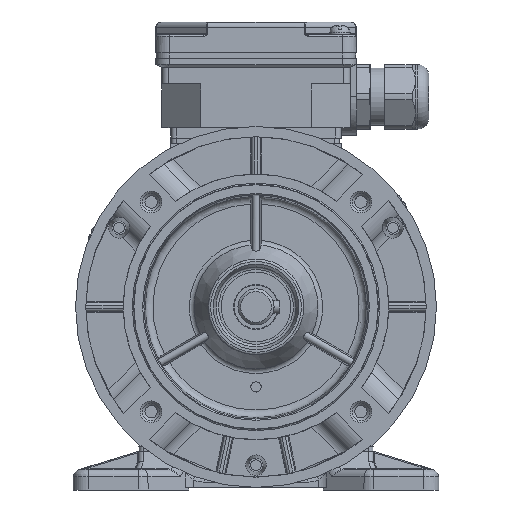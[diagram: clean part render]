
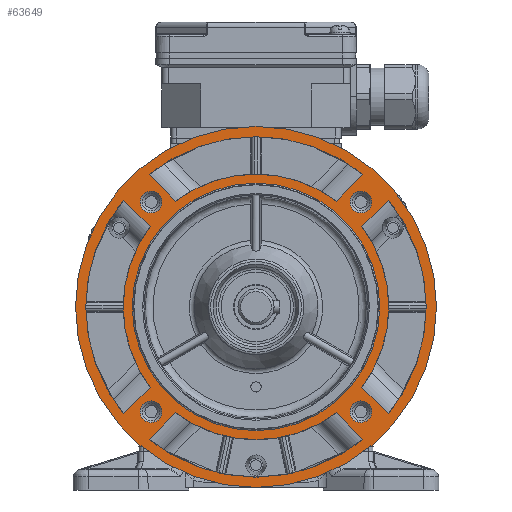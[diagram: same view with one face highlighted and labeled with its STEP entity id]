
A CAD part, front view. The second image highlights one B-rep face of the part: STEP entity #63649.
In plain terms, the highlighted planar face has unit normal (0, -1, 0).
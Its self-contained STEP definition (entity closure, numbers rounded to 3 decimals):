
#4535=CIRCLE('',#67129,48.);
#4536=CIRCLE('',#67131,51.5);
#4537=CIRCLE('',#67134,66.);
#4538=CIRCLE('',#67137,51.5);
#4539=CIRCLE('',#67140,66.);
#4540=CIRCLE('',#67143,51.5);
#4541=CIRCLE('',#67146,66.);
#4542=CIRCLE('',#67150,51.5);
#4543=CIRCLE('',#67153,66.);
#4544=CIRCLE('',#67155,4.2);
#4545=CIRCLE('',#67157,4.2);
#4546=CIRCLE('',#67159,4.2);
#4547=CIRCLE('',#67161,4.2);
#4573=CIRCLE('',#67207,70.);
#11906=ORIENTED_EDGE('',*,*,#22553,.T.);
#11907=ORIENTED_EDGE('',*,*,#22552,.T.);
#11908=ORIENTED_EDGE('',*,*,#22551,.T.);
#11909=ORIENTED_EDGE('',*,*,#22550,.T.);
#11910=ORIENTED_EDGE('',*,*,#22549,.F.);
#11911=ORIENTED_EDGE('',*,*,#22548,.F.);
#11912=ORIENTED_EDGE('',*,*,#22545,.T.);
#11913=ORIENTED_EDGE('',*,*,#22543,.T.);
#11914=ORIENTED_EDGE('',*,*,#22541,.T.);
#11915=ORIENTED_EDGE('',*,*,#22539,.F.);
#11916=ORIENTED_EDGE('',*,*,#22538,.F.);
#11917=ORIENTED_EDGE('',*,*,#22535,.T.);
#11918=ORIENTED_EDGE('',*,*,#22533,.T.);
#11919=ORIENTED_EDGE('',*,*,#22531,.F.);
#11920=ORIENTED_EDGE('',*,*,#22529,.F.);
#11921=ORIENTED_EDGE('',*,*,#22527,.T.);
#11922=ORIENTED_EDGE('',*,*,#22525,.T.);
#11923=ORIENTED_EDGE('',*,*,#22523,.F.);
#11924=ORIENTED_EDGE('',*,*,#22522,.F.);
#11925=ORIENTED_EDGE('',*,*,#22519,.T.);
#11926=ORIENTED_EDGE('',*,*,#22517,.T.);
#11927=ORIENTED_EDGE('',*,*,#22627,.T.);
#22517=EDGE_CURVE('',#28379,#28379,#4535,.F.);
#22519=EDGE_CURVE('',#28381,#28380,#4536,.T.);
#22522=EDGE_CURVE('',#28381,#28382,#32197,.T.);
#22523=EDGE_CURVE('',#28382,#28383,#4537,.T.);
#22525=EDGE_CURVE('',#28380,#28383,#32198,.T.);
#22527=EDGE_CURVE('',#28385,#28384,#4538,.T.);
#22529=EDGE_CURVE('',#28385,#28386,#32199,.T.);
#22531=EDGE_CURVE('',#28386,#28387,#4539,.T.);
#22533=EDGE_CURVE('',#28384,#28387,#32200,.T.);
#22535=EDGE_CURVE('',#28389,#28388,#4540,.T.);
#22538=EDGE_CURVE('',#28389,#28390,#32201,.T.);
#22539=EDGE_CURVE('',#28390,#28391,#4541,.T.);
#22541=EDGE_CURVE('',#28388,#28391,#32202,.T.);
#22543=EDGE_CURVE('',#28393,#28392,#32203,.T.);
#22545=EDGE_CURVE('',#28394,#28393,#4542,.T.);
#22548=EDGE_CURVE('',#28394,#28395,#32204,.T.);
#22549=EDGE_CURVE('',#28395,#28392,#4543,.T.);
#22550=EDGE_CURVE('',#28396,#28396,#4544,.F.);
#22551=EDGE_CURVE('',#28397,#28397,#4545,.F.);
#22552=EDGE_CURVE('',#28398,#28398,#4546,.F.);
#22553=EDGE_CURVE('',#28399,#28399,#4547,.F.);
#22627=EDGE_CURVE('',#28455,#28455,#4573,.T.);
#28379=VERTEX_POINT('',#93772);
#28380=VERTEX_POINT('',#93779);
#28381=VERTEX_POINT('',#93781);
#28382=VERTEX_POINT('',#93793);
#28383=VERTEX_POINT('',#93797);
#28384=VERTEX_POINT('',#93811);
#28385=VERTEX_POINT('',#93813);
#28386=VERTEX_POINT('',#93821);
#28387=VERTEX_POINT('',#93829);
#28388=VERTEX_POINT('',#93843);
#28389=VERTEX_POINT('',#93845);
#28390=VERTEX_POINT('',#93857);
#28391=VERTEX_POINT('',#93861);
#28392=VERTEX_POINT('',#93875);
#28393=VERTEX_POINT('',#93877);
#28394=VERTEX_POINT('',#93885);
#28395=VERTEX_POINT('',#93897);
#28396=VERTEX_POINT('',#93903);
#28397=VERTEX_POINT('',#93906);
#28398=VERTEX_POINT('',#93909);
#28399=VERTEX_POINT('',#93912);
#28455=VERTEX_POINT('',#94230);
#32197=LINE('',#93794,#35200);
#32198=LINE('',#93804,#35201);
#32199=LINE('',#93820,#35202);
#32200=LINE('',#93836,#35203);
#32201=LINE('',#93858,#35204);
#32202=LINE('',#93868,#35205);
#32203=LINE('',#93876,#35206);
#32204=LINE('',#93898,#35207);
#35200=VECTOR('',#75108,1000.);
#35201=VECTOR('',#75115,1000.);
#35202=VECTOR('',#75122,1000.);
#35203=VECTOR('',#75129,1000.);
#35204=VECTOR('',#75136,1000.);
#35205=VECTOR('',#75143,1000.);
#35206=VECTOR('',#75146,1000.);
#35207=VECTOR('',#75153,1000.);
#38330=EDGE_LOOP('',(#11906));
#38331=EDGE_LOOP('',(#11907));
#38332=EDGE_LOOP('',(#11908));
#38333=EDGE_LOOP('',(#11909));
#38334=EDGE_LOOP('',(#11910,#11911,#11912,#11913));
#38335=EDGE_LOOP('',(#11914,#11915,#11916,#11917));
#38336=EDGE_LOOP('',(#11918,#11919,#11920,#11921));
#38337=EDGE_LOOP('',(#11922,#11923,#11924,#11925));
#38338=EDGE_LOOP('',(#11926));
#38339=EDGE_LOOP('',(#11927));
#41375=FACE_BOUND('',#38330,.T.);
#41376=FACE_BOUND('',#38331,.T.);
#41377=FACE_BOUND('',#38332,.T.);
#41378=FACE_BOUND('',#38333,.T.);
#41379=FACE_BOUND('',#38334,.T.);
#41380=FACE_BOUND('',#38335,.T.);
#41381=FACE_BOUND('',#38336,.T.);
#41382=FACE_BOUND('',#38337,.T.);
#41383=FACE_BOUND('',#38338,.T.);
#41384=FACE_BOUND('',#38339,.T.);
#43412=PLANE('',#67206);
#63649=ADVANCED_FACE('',(#41375,#41376,#41377,#41378,#41379,#41380,#41381,
#41382,#41383,#41384),#43412,.T.);
#67129=AXIS2_PLACEMENT_3D('',#93771,#75100,#75101);
#67131=AXIS2_PLACEMENT_3D('',#93780,#75104,#75105);
#67134=AXIS2_PLACEMENT_3D('',#93796,#75111,#75112);
#67137=AXIS2_PLACEMENT_3D('',#93812,#75118,#75119);
#67140=AXIS2_PLACEMENT_3D('',#93828,#75125,#75126);
#67143=AXIS2_PLACEMENT_3D('',#93844,#75132,#75133);
#67146=AXIS2_PLACEMENT_3D('',#93860,#75139,#75140);
#67150=AXIS2_PLACEMENT_3D('',#93884,#75149,#75150);
#67153=AXIS2_PLACEMENT_3D('',#93900,#75156,#75157);
#67155=AXIS2_PLACEMENT_3D('',#93902,#75160,#75161);
#67157=AXIS2_PLACEMENT_3D('',#93905,#75164,#75165);
#67159=AXIS2_PLACEMENT_3D('',#93908,#75168,#75169);
#67161=AXIS2_PLACEMENT_3D('',#93911,#75172,#75173);
#67206=AXIS2_PLACEMENT_3D('',#94228,#75286,#75287);
#67207=AXIS2_PLACEMENT_3D('',#94229,#75288,#75289);
#75100=DIRECTION('',(0.,-1.,0.));
#75101=DIRECTION('',(0.,0.,1.));
#75104=DIRECTION('',(0.,-1.,0.));
#75105=DIRECTION('',(0.,0.,1.));
#75108=DIRECTION('',(0.707,0.,0.707));
#75111=DIRECTION('',(0.,-1.,0.));
#75112=DIRECTION('',(0.,0.,1.));
#75115=DIRECTION('',(-0.707,0.,0.707));
#75118=DIRECTION('',(0.,-1.,0.));
#75119=DIRECTION('',(0.,0.,1.));
#75122=DIRECTION('',(-0.707,0.,0.707));
#75125=DIRECTION('',(0.,-1.,0.));
#75126=DIRECTION('',(0.,0.,1.));
#75129=DIRECTION('',(-0.707,0.,-0.707));
#75132=DIRECTION('',(0.,-1.,0.));
#75133=DIRECTION('',(0.,0.,1.));
#75136=DIRECTION('',(-0.707,0.,-0.707));
#75139=DIRECTION('',(0.,-1.,0.));
#75140=DIRECTION('',(0.,0.,1.));
#75143=DIRECTION('',(0.707,0.,-0.707));
#75146=DIRECTION('',(0.707,0.,0.707));
#75149=DIRECTION('',(0.,-1.,0.));
#75150=DIRECTION('',(0.,0.,1.));
#75153=DIRECTION('',(0.707,0.,-0.707));
#75156=DIRECTION('',(0.,-1.,0.));
#75157=DIRECTION('',(0.,0.,1.));
#75160=DIRECTION('',(0.,-1.,0.));
#75161=DIRECTION('',(0.,0.,1.));
#75164=DIRECTION('',(0.,-1.,0.));
#75165=DIRECTION('',(0.,0.,1.));
#75168=DIRECTION('',(0.,-1.,0.));
#75169=DIRECTION('',(0.,0.,1.));
#75172=DIRECTION('',(0.,-1.,0.));
#75173=DIRECTION('',(0.,0.,1.));
#75286=DIRECTION('',(0.,-1.,0.));
#75287=DIRECTION('',(0.,0.,1.));
#75288=DIRECTION('',(0.,-1.,0.));
#75289=DIRECTION('',(0.,0.,1.));
#93771=CARTESIAN_POINT('',(0.,-41.,0.));
#93772=CARTESIAN_POINT('',(0.,-41.,48.));
#93779=CARTESIAN_POINT('',(-31.128,-41.,41.028));
#93780=CARTESIAN_POINT('',(0.,-41.,0.));
#93781=CARTESIAN_POINT('',(31.128,-41.,41.028));
#93793=CARTESIAN_POINT('',(41.456,-41.,51.356));
#93794=CARTESIAN_POINT('',(29.217,-41.,39.116));
#93796=CARTESIAN_POINT('',(0.,-41.,0.));
#93797=CARTESIAN_POINT('',(-41.456,-41.,51.356));
#93804=CARTESIAN_POINT('',(-29.217,-41.,39.116));
#93811=CARTESIAN_POINT('',(-41.028,-41.,-31.128));
#93812=CARTESIAN_POINT('',(0.,-41.,0.));
#93813=CARTESIAN_POINT('',(-41.028,-41.,31.128));
#93820=CARTESIAN_POINT('',(-39.116,-41.,29.217));
#93821=CARTESIAN_POINT('',(-51.356,-41.,41.456));
#93828=CARTESIAN_POINT('',(0.,-41.,0.));
#93829=CARTESIAN_POINT('',(-51.356,-41.,-41.456));
#93836=CARTESIAN_POINT('',(-39.116,-41.,-29.217));
#93843=CARTESIAN_POINT('',(31.128,-41.,-41.028));
#93844=CARTESIAN_POINT('',(0.,-41.,0.));
#93845=CARTESIAN_POINT('',(-31.128,-41.,-41.028));
#93857=CARTESIAN_POINT('',(-41.456,-41.,-51.356));
#93858=CARTESIAN_POINT('',(-29.217,-41.,-39.116));
#93860=CARTESIAN_POINT('',(0.,-41.,0.));
#93861=CARTESIAN_POINT('',(41.456,-41.,-51.356));
#93868=CARTESIAN_POINT('',(29.217,-41.,-39.116));
#93875=CARTESIAN_POINT('',(51.356,-41.,41.456));
#93876=CARTESIAN_POINT('',(39.116,-41.,29.217));
#93877=CARTESIAN_POINT('',(41.028,-41.,31.128));
#93884=CARTESIAN_POINT('',(0.,-41.,0.));
#93885=CARTESIAN_POINT('',(41.028,-41.,-31.128));
#93897=CARTESIAN_POINT('',(51.356,-41.,-41.456));
#93898=CARTESIAN_POINT('',(39.116,-41.,-29.217));
#93900=CARTESIAN_POINT('',(0.,-41.,0.));
#93902=CARTESIAN_POINT('',(-40.659,-41.,40.659));
#93903=CARTESIAN_POINT('',(-40.659,-41.,44.859));
#93905=CARTESIAN_POINT('',(40.659,-41.,40.659));
#93906=CARTESIAN_POINT('',(40.659,-41.,44.859));
#93908=CARTESIAN_POINT('',(40.659,-41.,-40.659));
#93909=CARTESIAN_POINT('',(40.659,-41.,-36.459));
#93911=CARTESIAN_POINT('',(-40.659,-41.,-40.659));
#93912=CARTESIAN_POINT('',(-40.659,-41.,-36.459));
#94228=CARTESIAN_POINT('',(0.,-41.,47.5));
#94229=CARTESIAN_POINT('',(0.,-41.,0.));
#94230=CARTESIAN_POINT('',(0.,-41.,70.));
